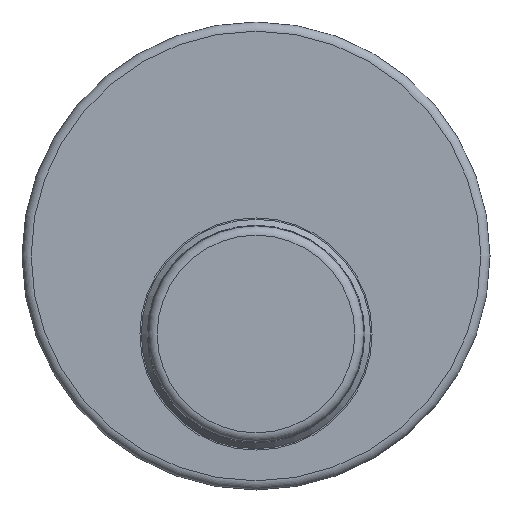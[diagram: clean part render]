
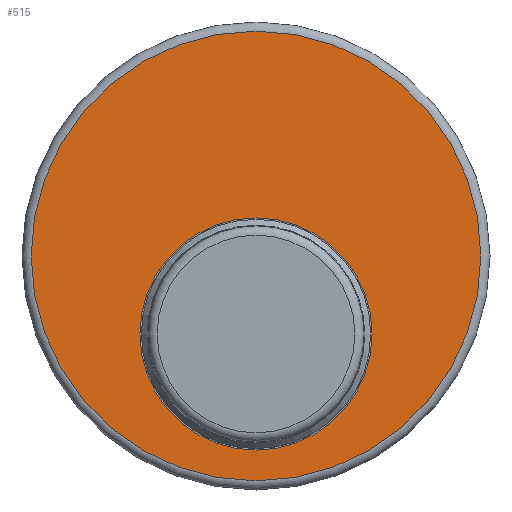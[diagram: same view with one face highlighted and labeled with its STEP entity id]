
A CAD part, front view. The second image highlights one B-rep face of the part: STEP entity #515.
In plain terms, the highlighted planar face has unit normal (0, -1, 0).
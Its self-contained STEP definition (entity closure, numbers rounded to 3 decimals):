
#425=FACE_BOUND('',#743,.T.);
#515=ADVANCED_FACE('',(#425,#644),#567,.T.);
#567=PLANE('',#1699);
#644=FACE_OUTER_BOUND('',#744,.T.);
#743=EDGE_LOOP('',(#1141));
#744=EDGE_LOOP('',(#1142));
#1141=ORIENTED_EDGE('',*,*,#1483,.F.);
#1142=ORIENTED_EDGE('',*,*,#1484,.T.);
#1284=VERTEX_POINT('',#2553);
#1285=VERTEX_POINT('',#2555);
#1483=EDGE_CURVE('',#1284,#1284,#1550,.T.);
#1484=EDGE_CURVE('',#1285,#1285,#1551,.T.);
#1550=CIRCLE('',#1697,12.65);
#1551=CIRCLE('',#1698,24.5);
#1697=AXIS2_PLACEMENT_3D('',#2552,#2124,#2125);
#1698=AXIS2_PLACEMENT_3D('',#2554,#2126,#2127);
#1699=AXIS2_PLACEMENT_3D('',#2556,#2128,#2129);
#2124=DIRECTION('',(0.,-1.,0.));
#2125=DIRECTION('',(0.,0.,-1.));
#2126=DIRECTION('',(0.,-1.,0.));
#2127=DIRECTION('',(0.,0.,-1.));
#2128=DIRECTION('',(0.,-1.,0.));
#2129=DIRECTION('',(0.,0.,-1.));
#2552=CARTESIAN_POINT('',(729.5,30.3,-108.5));
#2553=CARTESIAN_POINT('',(729.5,30.3,-121.15));
#2554=CARTESIAN_POINT('',(729.5,30.3,-100.));
#2555=CARTESIAN_POINT('',(729.5,30.3,-124.5));
#2556=CARTESIAN_POINT('',(729.5,30.3,-100.));
